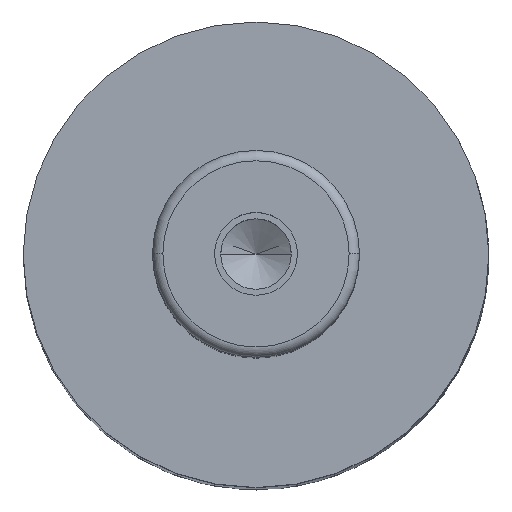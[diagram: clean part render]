
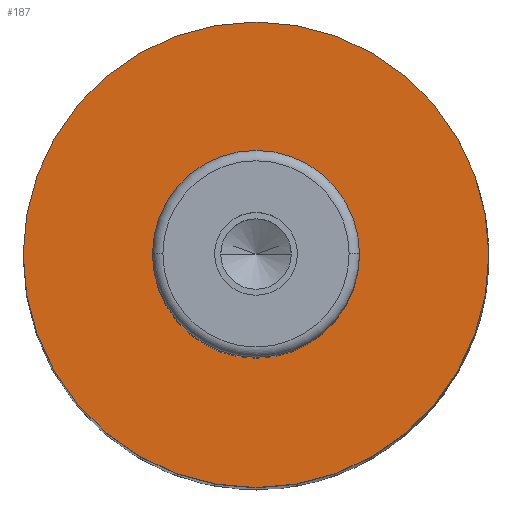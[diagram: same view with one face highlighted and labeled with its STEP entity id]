
A CAD part, top view. The second image highlights one B-rep face of the part: STEP entity #187.
In plain terms, the highlighted planar face has unit normal (0, 0, 1).
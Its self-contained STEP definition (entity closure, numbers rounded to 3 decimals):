
#107=PLANE('',#989);
#130=FACE_BOUND('',#298,.T.);
#131=FACE_BOUND('',#299,.T.);
#187=ADVANCED_FACE('',(#130,#131),#107,.T.);
#298=EDGE_LOOP('',(#463,#464));
#299=EDGE_LOOP('',(#465,#466));
#367=CIRCLE('',#983,10.);
#368=CIRCLE('',#985,10.);
#369=CIRCLE('',#987,22.5);
#370=CIRCLE('',#988,22.5);
#463=ORIENTED_EDGE('',*,*,#758,.F.);
#464=ORIENTED_EDGE('',*,*,#759,.F.);
#465=ORIENTED_EDGE('',*,*,#757,.T.);
#466=ORIENTED_EDGE('',*,*,#755,.T.);
#670=VERTEX_POINT('',#1421);
#671=VERTEX_POINT('',#1423);
#672=VERTEX_POINT('',#1429);
#673=VERTEX_POINT('',#1430);
#755=EDGE_CURVE('',#671,#670,#367,.T.);
#757=EDGE_CURVE('',#670,#671,#368,.T.);
#758=EDGE_CURVE('',#672,#673,#369,.T.);
#759=EDGE_CURVE('',#673,#672,#370,.T.);
#983=AXIS2_PLACEMENT_3D('',#1422,#1137,#1138);
#985=AXIS2_PLACEMENT_3D('',#1426,#1142,#1143);
#987=AXIS2_PLACEMENT_3D('',#1428,#1146,#1147);
#988=AXIS2_PLACEMENT_3D('',#1431,#1148,#1149);
#989=AXIS2_PLACEMENT_3D('',#1432,#1150,#1151);
#1137=DIRECTION('',(0.,0.,-1.));
#1138=DIRECTION('',(0.,1.,0.));
#1142=DIRECTION('',(0.,0.,-1.));
#1143=DIRECTION('',(0.,-1.,0.));
#1146=DIRECTION('',(0.,0.,-1.));
#1147=DIRECTION('',(0.,1.,0.));
#1148=DIRECTION('',(0.,0.,-1.));
#1149=DIRECTION('',(0.,-1.,0.));
#1150=DIRECTION('',(0.,0.,1.));
#1151=DIRECTION('',(0.,-1.,0.));
#1421=CARTESIAN_POINT('',(-10.,0.,133.));
#1422=CARTESIAN_POINT('',(0.,0.,133.));
#1423=CARTESIAN_POINT('',(10.,0.,133.));
#1426=CARTESIAN_POINT('',(0.,0.,133.));
#1428=CARTESIAN_POINT('',(0.,0.,133.));
#1429=CARTESIAN_POINT('',(22.5,0.,133.));
#1430=CARTESIAN_POINT('',(-22.5,0.,133.));
#1431=CARTESIAN_POINT('',(0.,0.,133.));
#1432=CARTESIAN_POINT('',(0.,0.,133.));
